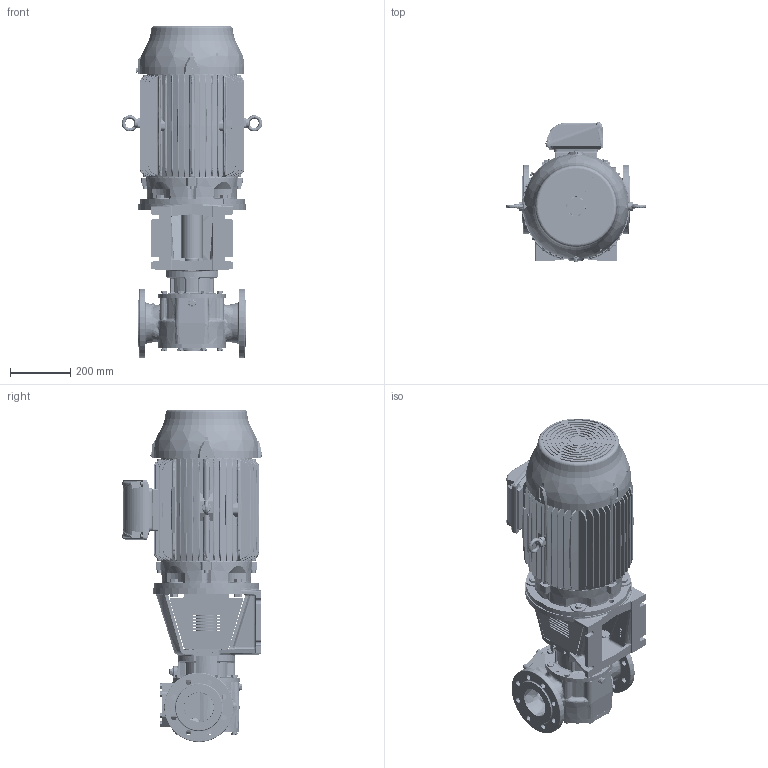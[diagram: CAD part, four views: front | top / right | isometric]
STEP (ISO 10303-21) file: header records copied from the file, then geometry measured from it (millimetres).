
FILE_DESCRIPTION(/* description */ (''),/* implementation_level */ '2;1');
FILE_NAME(/* name */ 'C:\V\JPP\Designs\GEAR PUMPS\PRODUCT ENGINEERING\EUROPE\TG BLOC\TG BLOC_86-100_G2_O_NRV-_180L-STEP.stp',/* time_stamp */ '2021-03-19T13:59:59+01:00',/* author */ ('A77THR'),/* organization */ (''),/* preprocessor_version */ 'ST-DEVELOPER v18.1',/* originating_system */ 'Autodesk Inventor 2020',/* authorisation */ '');
FILE_SCHEMA (('AUTOMOTIVE_DESIGN { 1 0 10303 214 3 1 1 }'));
Length unit declared in the file: millimetre
Products named in the file (1): TG BLOC_86-100_G2_O_NRV-_180L
Bounding box: 466 x 466.9 x 1101.7 mm (x, y, z)
Volume: 64606754.2 mm3; surface area: 2893074.7 mm2
Topology: 4 solids, 4 shells, 5341 faces, 13744 edges, 8554 vertices
Faces by surface type: plane 1829, bspline 1621, cylinder 1191, cone 488, torus 152, sphere 60
Full cylindrical faces by diameter (mm): 4 x1, 4.5 x8, 4.917 x8, 5 x4, 6.3 x1, 6.647 x1, 7 x4, 8 x3, 9 x2, 9.188 x8, 10 x16, 10.106 x7, 10.2 x2, 11 x8, 11.053 x4, 11.445 x2, 11.6 x3, 12 x4, 13 x1, 13.157 x2, 13.2 x2, 14 x8, 15.011 x2, 15.4 x8, 16 x5, 17.2 x20, 18 x18, 19 x6, 21.939 x2, 22 x4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
Entity records: 253130 total; most frequent: CARTESIAN_POINT 129397, ORIENTED_EDGE 27288, DIRECTION 21659, EDGE_CURVE 13644, VERTEX_POINT 8560, AXIS2_PLACEMENT_3D 8535, EDGE_LOOP 5714, FACE_OUTER_BOUND 5341
